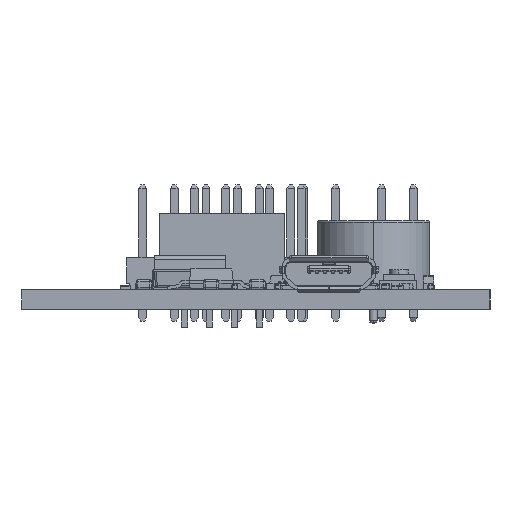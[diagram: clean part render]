
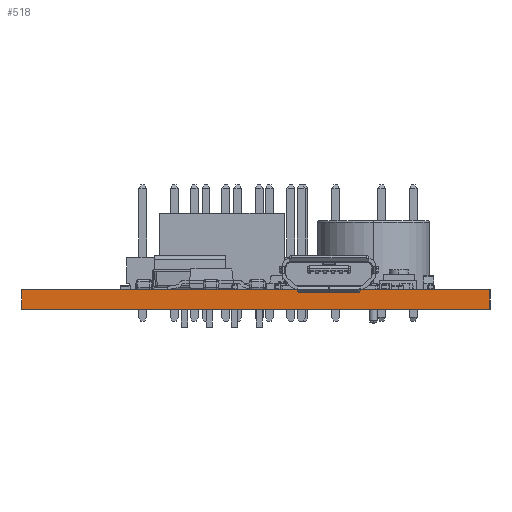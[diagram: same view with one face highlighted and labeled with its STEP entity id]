
A CAD part, left-side view. The second image highlights one B-rep face of the part: STEP entity #518.
In plain terms, the highlighted planar face has unit normal (-1, 0, 0).
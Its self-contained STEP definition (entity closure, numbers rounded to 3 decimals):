
#420 = EDGE_CURVE('',#421,#423,#425,.T.);
#421 = VERTEX_POINT('',#422);
#422 = CARTESIAN_POINT('',(-0.01,-0.02,0.));
#423 = VERTEX_POINT('',#424);
#424 = CARTESIAN_POINT('',(-0.01,-0.02,1.591));
#425 = LINE('',#426,#427);
#426 = CARTESIAN_POINT('',(-0.01,-0.02,0.));
#427 = VECTOR('',#428,1.);
#428 = DIRECTION('',(0.,0.,1.));
#493 = VERTEX_POINT('',#494);
#494 = CARTESIAN_POINT('',(-0.01,37.48,1.591));
#500 = EDGE_CURVE('',#501,#493,#503,.T.);
#501 = VERTEX_POINT('',#502);
#502 = CARTESIAN_POINT('',(-0.01,37.48,0.));
#503 = LINE('',#504,#505);
#504 = CARTESIAN_POINT('',(-0.01,37.48,0.));
#505 = VECTOR('',#506,1.);
#506 = DIRECTION('',(0.,0.,1.));
#518 = ADVANCED_FACE('',(#519),#535,.F.);
#519 = FACE_BOUND('',#520,.F.);
#520 = EDGE_LOOP('',(#521,#522,#528,#529));
#521 = ORIENTED_EDGE('',*,*,#500,.T.);
#522 = ORIENTED_EDGE('',*,*,#523,.T.);
#523 = EDGE_CURVE('',#493,#423,#524,.T.);
#524 = LINE('',#525,#526);
#525 = CARTESIAN_POINT('',(-0.01,37.48,1.591));
#526 = VECTOR('',#527,1.);
#527 = DIRECTION('',(0.,-1.,0.));
#528 = ORIENTED_EDGE('',*,*,#420,.F.);
#529 = ORIENTED_EDGE('',*,*,#530,.F.);
#530 = EDGE_CURVE('',#501,#421,#531,.T.);
#531 = LINE('',#532,#533);
#532 = CARTESIAN_POINT('',(-0.01,37.48,0.));
#533 = VECTOR('',#534,1.);
#534 = DIRECTION('',(0.,-1.,0.));
#535 = PLANE('',#536);
#536 = AXIS2_PLACEMENT_3D('',#537,#538,#539);
#537 = CARTESIAN_POINT('',(-0.01,37.48,0.));
#538 = DIRECTION('',(1.,0.,0.));
#539 = DIRECTION('',(0.,-1.,0.));
